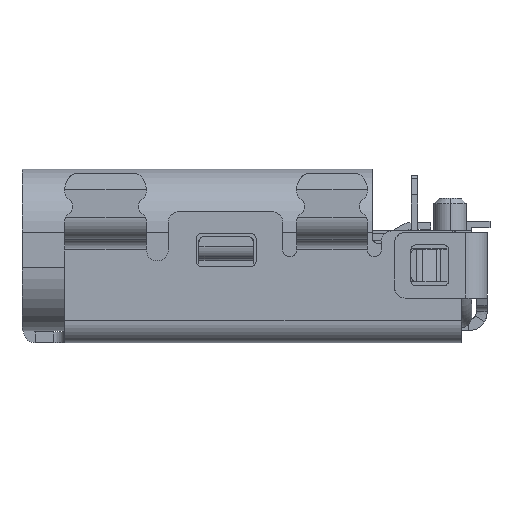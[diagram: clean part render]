
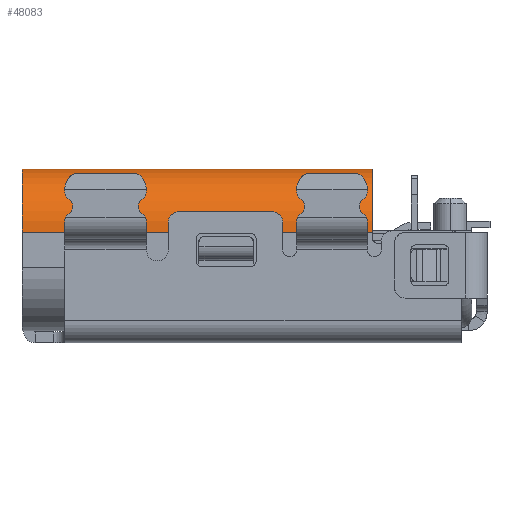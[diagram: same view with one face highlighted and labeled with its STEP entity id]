
A CAD part, left-side view. The second image highlights one B-rep face of the part: STEP entity #48083.
In plain terms, the highlighted cylindrical face has radius 1.155 mm (diameter 2.31 mm), a partial arc.
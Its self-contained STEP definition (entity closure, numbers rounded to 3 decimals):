
#12425=CARTESIAN_POINT('',(0.975,7.235,-0.98));
#12426=DIRECTION('',(0.,-1.,0.));
#12427=DIRECTION('',(0.,0.,1.));
#12428=AXIS2_PLACEMENT_3D('',#12425,#12426,#12427);
#13001=CARTESIAN_POINT('',(0.975,0.82,
-0.98));
#13002=DIRECTION('',(0.,1.,0.));
#13003=DIRECTION('',(-1.,0.,0.));
#13004=AXIS2_PLACEMENT_3D('',#13001,#13002,#13003);
#13325=DIRECTION('',(0.,-1.,0.));
#13326=VECTOR('',#13325,6.415);
#13327=CARTESIAN_POINT('',(0.975,7.235,0.175));
#13328=LINE('',#13327,#13326);
#13329=DIRECTION('',(0.,1.,0.));
#13330=VECTOR('',#13329,6.415);
#13331=CARTESIAN_POINT('',(-0.18,0.82,
-0.98));
#13332=LINE('',#13331,#13330);
#26149=CARTESIAN_POINT('',(-0.18,7.235,-0.98));
#26150=VERTEX_POINT('',#26149);
#26151=CARTESIAN_POINT('',(-0.18,0.82,
-0.98));
#26152=VERTEX_POINT('',#26151);
#28735=CARTESIAN_POINT('',(0.975,0.82,
0.175));
#28736=VERTEX_POINT('',#28735);
#28737=CARTESIAN_POINT('',(0.975,7.235,0.175));
#28738=VERTEX_POINT('',#28737);
#48072=CARTESIAN_POINT('',(0.975,7.363,-0.98));
#48073=DIRECTION('',(0.,-1.,0.));
#48074=DIRECTION('',(0.,0.,-1.));
#48075=AXIS2_PLACEMENT_3D('',#48072,#48073,#48074);
#48076=CYLINDRICAL_SURFACE('',#48075,1.155);
#48077=ORIENTED_EDGE('',*,*,#46882,.F.);
#48078=ORIENTED_EDGE('',*,*,#47336,.T.);
#48079=ORIENTED_EDGE('',*,*,#47660,.F.);
#48080=ORIENTED_EDGE('',*,*,#47762,.T.);
#48081=EDGE_LOOP('',(#48077,#48078,#48079,#48080));
#48082=FACE_OUTER_BOUND('',#48081,.F.);
#12429=CIRCLE('',#12428,1.155);
#13005=CIRCLE('',#13004,1.155);
#46882=EDGE_CURVE('',#28738,#26150,#12429,.T.);
#47336=EDGE_CURVE('',#28738,#28736,#13328,.T.);
#47660=EDGE_CURVE('',#26152,#28736,#13005,.T.);
#47762=EDGE_CURVE('',#26152,#26150,#13332,.T.);
#48083=ADVANCED_FACE('',(#48082),#48076,.T.);
